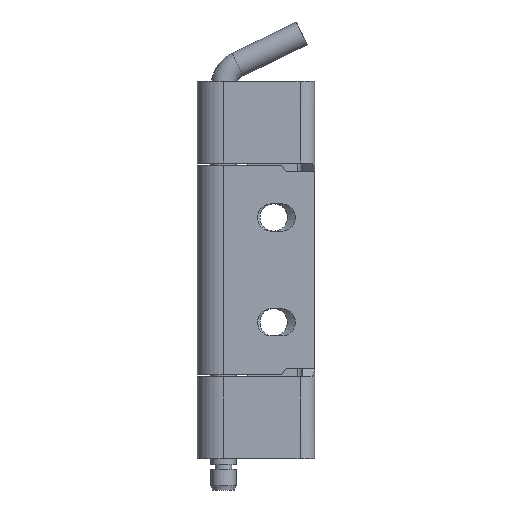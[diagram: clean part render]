
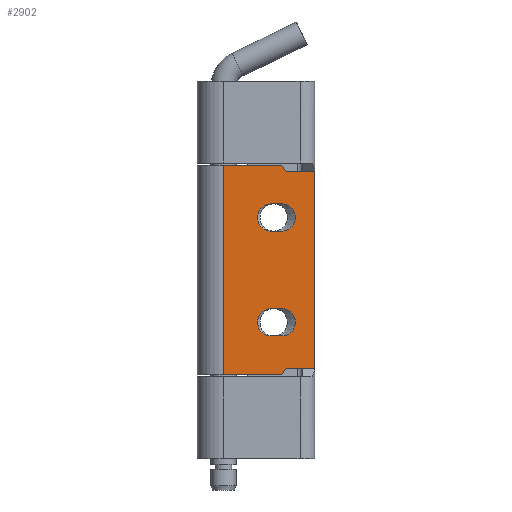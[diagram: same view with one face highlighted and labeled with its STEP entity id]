
A CAD part, front view. The second image highlights one B-rep face of the part: STEP entity #2902.
In plain terms, the highlighted planar face has unit normal (0, -1, 0).
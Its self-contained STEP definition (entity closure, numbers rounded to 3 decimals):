
#16 = CIRCLE ( 'NONE', #420, 3.25 ) ;
#48 = DIRECTION ( 'NONE',  ( 0., 0., 1. ) ) ;
#55 = DIRECTION ( 'NONE',  ( -1., 0., 0. ) ) ;
#85 = CARTESIAN_POINT ( 'NONE',  ( 21.629, 0., 9.25 ) ) ;
#127 = DIRECTION ( 'NONE',  ( 0., 0., 1. ) ) ;
#251 = EDGE_CURVE ( 'NONE', #2960, #508, #2658, .T. ) ;
#255 = LINE ( 'NONE', #2881, #1864 ) ;
#280 = ORIENTED_EDGE ( 'NONE', *, *, #1473, .T. ) ;
#281 = CARTESIAN_POINT ( 'NONE',  ( 40.115, 0., -11.816 ) ) ;
#289 = LINE ( 'NONE', #1952, #915 ) ;
#353 = EDGE_CURVE ( 'NONE', #1926, #1726, #592, .T. ) ;
#380 = ORIENTED_EDGE ( 'NONE', *, *, #1550, .T. ) ;
#398 = CARTESIAN_POINT ( 'NONE',  ( 13.879, 0., 15.75 ) ) ;
#418 = LINE ( 'NONE', #2537, #1009 ) ;
#420 = AXIS2_PLACEMENT_3D ( 'NONE', #730, #1202, #48 ) ;
#430 = ORIENTED_EDGE ( 'NONE', *, *, #2373, .T. ) ;
#464 = VECTOR ( 'NONE', #2941, 1000. ) ;
#469 = DIRECTION ( 'NONE',  ( 0.581, 0., 0.814 ) ) ;
#508 = VERTEX_POINT ( 'NONE', #1521 ) ;
#525 = DIRECTION ( 'NONE',  ( 0., 1., 0. ) ) ;
#554 = DIRECTION ( 'NONE',  ( 0., 0., 1. ) ) ;
#564 = VECTOR ( 'NONE', #2275, 1000. ) ;
#592 = LINE ( 'NONE', #1781, #1622 ) ;
#643 = VECTOR ( 'NONE', #1789, 1000. ) ;
#646 = DIRECTION ( 'NONE',  ( 0., 0., 1. ) ) ;
#689 = VERTEX_POINT ( 'NONE', #1626 ) ;
#713 = LINE ( 'NONE', #85, #464 ) ;
#717 = CARTESIAN_POINT ( 'NONE',  ( 21.629, 0., 15.75 ) ) ;
#730 = CARTESIAN_POINT ( 'NONE',  ( 13.879, 0., -12.5 ) ) ;
#747 = DIRECTION ( 'NONE',  ( 0., 0., 1. ) ) ;
#762 = AXIS2_PLACEMENT_3D ( 'NONE', #1790, #2062, #127 ) ;
#769 = CARTESIAN_POINT ( 'NONE',  ( 13.879, 0., -15.75 ) ) ;
#775 = ORIENTED_EDGE ( 'NONE', *, *, #1447, .F. ) ;
#826 = CARTESIAN_POINT ( 'NONE',  ( 14.928, 0., 23.5 ) ) ;
#833 = VERTEX_POINT ( 'NONE', #1257 ) ;
#878 = CARTESIAN_POINT ( 'NONE',  ( 13.879, 0., -9.25 ) ) ;
#915 = VECTOR ( 'NONE', #2900, 1000. ) ;
#926 = EDGE_CURVE ( 'NONE', #2224, #1926, #1659, .T. ) ;
#990 = VERTEX_POINT ( 'NONE', #2934 ) ;
#999 = CARTESIAN_POINT ( 'NONE',  ( 13.879, 0., 9.25 ) ) ;
#1009 = VECTOR ( 'NONE', #646, 1000. ) ;
#1022 = EDGE_CURVE ( 'NONE', #689, #2911, #1539, .T. ) ;
#1065 = VERTEX_POINT ( 'NONE', #2267 ) ;
#1087 = ORIENTED_EDGE ( 'NONE', *, *, #1022, .T. ) ;
#1089 = CARTESIAN_POINT ( 'NONE',  ( 11.379, 0., -12.5 ) ) ;
#1100 = ORIENTED_EDGE ( 'NONE', *, *, #1311, .T. ) ;
#1119 = FACE_BOUND ( 'NONE', #2586, .T. ) ;
#1145 = VECTOR ( 'NONE', #2409, 1000. ) ;
#1149 = LINE ( 'NONE', #3023, #564 ) ;
#1202 = DIRECTION ( 'NONE',  ( 0., 1., 0. ) ) ;
#1246 = ORIENTED_EDGE ( 'NONE', *, *, #2219, .T. ) ;
#1257 = CARTESIAN_POINT ( 'NONE',  ( 11.379, 0., 15.75 ) ) ;
#1276 = DIRECTION ( 'NONE',  ( 0., 1., 0. ) ) ;
#1311 = EDGE_CURVE ( 'NONE', #508, #1639, #255, .T. ) ;
#1327 = AXIS2_PLACEMENT_3D ( 'NONE', #1089, #1276, #554 ) ;
#1341 = VERTEX_POINT ( 'NONE', #769 ) ;
#1417 = CARTESIAN_POINT ( 'NONE',  ( 13.879, 0., 12.5 ) ) ;
#1431 = CARTESIAN_POINT ( 'NONE',  ( 16.478, 0., -21.326 ) ) ;
#1447 = EDGE_CURVE ( 'NONE', #990, #2474, #1455, .T. ) ;
#1448 = DIRECTION ( 'NONE',  ( 0., 1., 0. ) ) ;
#1455 = LINE ( 'NONE', #1934, #2259 ) ;
#1473 = EDGE_CURVE ( 'NONE', #1341, #2224, #289, .T. ) ;
#1505 = DIRECTION ( 'NONE',  ( -1., 0., 0. ) ) ;
#1513 = VECTOR ( 'NONE', #2531, 1000. ) ;
#1521 = CARTESIAN_POINT ( 'NONE',  ( 13.859, 0., 25. ) ) ;
#1524 = CARTESIAN_POINT ( 'NONE',  ( 0., 0., 25. ) ) ;
#1539 = LINE ( 'NONE', #2740, #643 ) ;
#1543 = ORIENTED_EDGE ( 'NONE', *, *, #1910, .T. ) ;
#1544 = ORIENTED_EDGE ( 'NONE', *, *, #3032, .F. ) ;
#1550 = EDGE_CURVE ( 'NONE', #1065, #833, #2808, .T. ) ;
#1577 = EDGE_LOOP ( 'NONE', ( #2799, #1087, #1246, #2887, #1100, #1544, #775, #1645 ) ) ;
#1585 = CARTESIAN_POINT ( 'NONE',  ( 21.629, 0., 23.5 ) ) ;
#1605 = VECTOR ( 'NONE', #2847, 1000. ) ;
#1619 = LINE ( 'NONE', #2768, #1513 ) ;
#1622 = VECTOR ( 'NONE', #2926, 1000. ) ;
#1626 = CARTESIAN_POINT ( 'NONE',  ( 21.629, 0., -23.5 ) ) ;
#1639 = VERTEX_POINT ( 'NONE', #1524 ) ;
#1645 = ORIENTED_EDGE ( 'NONE', *, *, #2252, .T. ) ;
#1659 = CIRCLE ( 'NONE', #1327, 3.25 ) ;
#1702 = CIRCLE ( 'NONE', #3035, 3.25 ) ;
#1703 = CARTESIAN_POINT ( 'NONE',  ( 11.379, 0., 12.5 ) ) ;
#1726 = VERTEX_POINT ( 'NONE', #878 ) ;
#1781 = CARTESIAN_POINT ( 'NONE',  ( 21.629, 0., -9.25 ) ) ;
#1789 = DIRECTION ( 'NONE',  ( 0., 0., 1. ) ) ;
#1790 = CARTESIAN_POINT ( 'NONE',  ( 21.629, 0., -25. ) ) ;
#1856 = ORIENTED_EDGE ( 'NONE', *, *, #353, .T. ) ;
#1864 = VECTOR ( 'NONE', #55, 1000. ) ;
#1894 = LINE ( 'NONE', #1431, #2589 ) ;
#1897 = VERTEX_POINT ( 'NONE', #999 ) ;
#1900 = LINE ( 'NONE', #717, #1605 ) ;
#1910 = EDGE_CURVE ( 'NONE', #833, #2207, #1900, .T. ) ;
#1926 = VERTEX_POINT ( 'NONE', #2233 ) ;
#1934 = CARTESIAN_POINT ( 'NONE',  ( 21.629, 0., -25. ) ) ;
#1952 = CARTESIAN_POINT ( 'NONE',  ( 21.629, 0., -15.75 ) ) ;
#2062 = DIRECTION ( 'NONE',  ( 0., 1., 0. ) ) ;
#2069 = CARTESIAN_POINT ( 'NONE',  ( 11.379, 0., -15.75 ) ) ;
#2155 = DIRECTION ( 'NONE',  ( 0., 0., 1. ) ) ;
#2207 = VERTEX_POINT ( 'NONE', #398 ) ;
#2219 = EDGE_CURVE ( 'NONE', #2911, #2960, #1619, .T. ) ;
#2224 = VERTEX_POINT ( 'NONE', #2069 ) ;
#2233 = CARTESIAN_POINT ( 'NONE',  ( 11.379, 0., -9.25 ) ) ;
#2252 = EDGE_CURVE ( 'NONE', #990, #2307, #1894, .T. ) ;
#2259 = VECTOR ( 'NONE', #1505, 1000. ) ;
#2267 = CARTESIAN_POINT ( 'NONE',  ( 11.379, 0., 9.25 ) ) ;
#2275 = DIRECTION ( 'NONE',  ( 1., 0., 0. ) ) ;
#2307 = VERTEX_POINT ( 'NONE', #2376 ) ;
#2328 = ORIENTED_EDGE ( 'NONE', *, *, #2352, .T. ) ;
#2352 = EDGE_CURVE ( 'NONE', #1726, #1341, #16, .T. ) ;
#2373 = EDGE_CURVE ( 'NONE', #1897, #1065, #713, .T. ) ;
#2376 = CARTESIAN_POINT ( 'NONE',  ( 14.928, 0., -23.5 ) ) ;
#2409 = DIRECTION ( 'NONE',  ( -0.581, 0., 0.814 ) ) ;
#2428 = EDGE_LOOP ( 'NONE', ( #1543, #3057, #430, #380 ) ) ;
#2454 = EDGE_CURVE ( 'NONE', #2207, #1897, #1702, .T. ) ;
#2474 = VERTEX_POINT ( 'NONE', #2622 ) ;
#2493 = PLANE ( 'NONE',  #762 ) ;
#2531 = DIRECTION ( 'NONE',  ( -1., 0., 0. ) ) ;
#2537 = CARTESIAN_POINT ( 'NONE',  ( 0., 0., -25. ) ) ;
#2586 = EDGE_LOOP ( 'NONE', ( #280, #2618, #1856, #2328 ) ) ;
#2589 = VECTOR ( 'NONE', #469, 1000. ) ;
#2618 = ORIENTED_EDGE ( 'NONE', *, *, #926, .T. ) ;
#2622 = CARTESIAN_POINT ( 'NONE',  ( 0., 0., -25. ) ) ;
#2658 = LINE ( 'NONE', #281, #1145 ) ;
#2664 = AXIS2_PLACEMENT_3D ( 'NONE', #1703, #525, #2155 ) ;
#2705 = EDGE_CURVE ( 'NONE', #2307, #689, #1149, .T. ) ;
#2728 = FACE_OUTER_BOUND ( 'NONE', #1577, .T. ) ;
#2740 = CARTESIAN_POINT ( 'NONE',  ( 21.629, 0., -25. ) ) ;
#2757 = FACE_BOUND ( 'NONE', #2428, .T. ) ;
#2768 = CARTESIAN_POINT ( 'NONE',  ( 21.629, 0., 23.5 ) ) ;
#2799 = ORIENTED_EDGE ( 'NONE', *, *, #2705, .T. ) ;
#2808 = CIRCLE ( 'NONE', #2664, 3.25 ) ;
#2847 = DIRECTION ( 'NONE',  ( 1., 0., 0. ) ) ;
#2881 = CARTESIAN_POINT ( 'NONE',  ( 21.629, 0., 25. ) ) ;
#2887 = ORIENTED_EDGE ( 'NONE', *, *, #251, .T. ) ;
#2900 = DIRECTION ( 'NONE',  ( -1., 0., 0. ) ) ;
#2902 = ADVANCED_FACE ( 'NONE', ( #2728, #2757, #1119 ), #2493, .F. ) ;
#2911 = VERTEX_POINT ( 'NONE', #1585 ) ;
#2926 = DIRECTION ( 'NONE',  ( 1., 0., 0. ) ) ;
#2934 = CARTESIAN_POINT ( 'NONE',  ( 13.859, 0., -25. ) ) ;
#2941 = DIRECTION ( 'NONE',  ( -1., 0., 0. ) ) ;
#2960 = VERTEX_POINT ( 'NONE', #826 ) ;
#3023 = CARTESIAN_POINT ( 'NONE',  ( 21.629, 0., -23.5 ) ) ;
#3032 = EDGE_CURVE ( 'NONE', #2474, #1639, #418, .T. ) ;
#3035 = AXIS2_PLACEMENT_3D ( 'NONE', #1417, #1448, #747 ) ;
#3057 = ORIENTED_EDGE ( 'NONE', *, *, #2454, .T. ) ;
